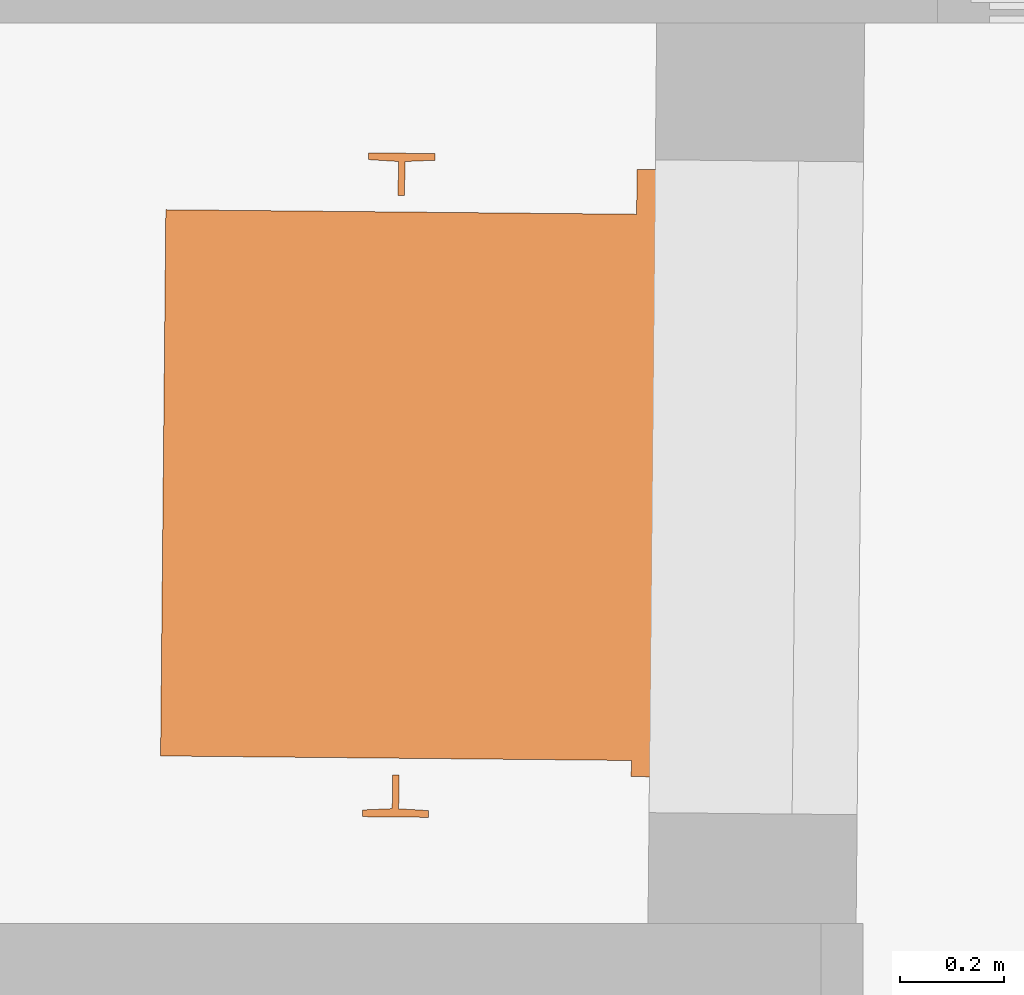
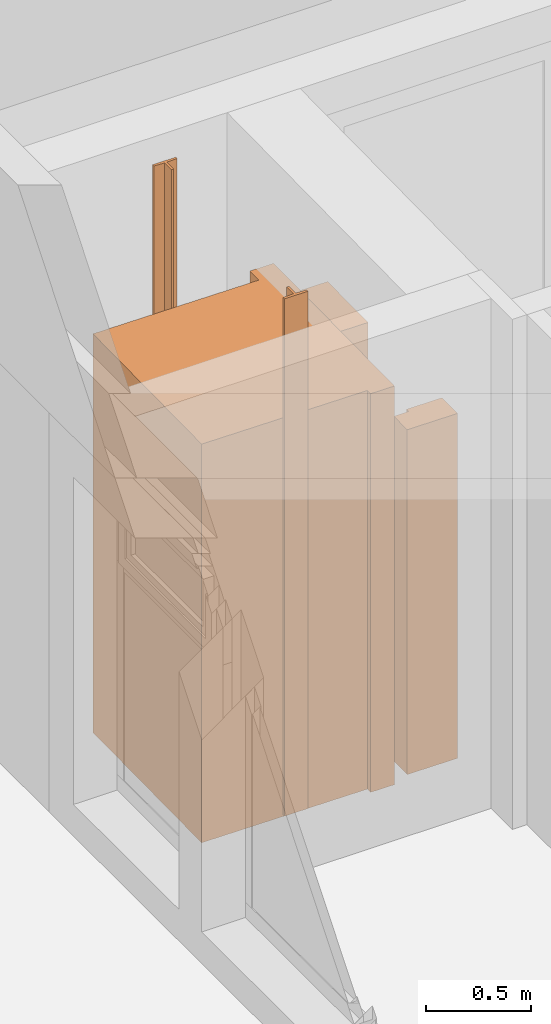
# One storey, part 49 of 49: 1 proxy.
"""IFC4 building model written with IfcOpenShell, lengths in metres."""

from ifc_helpers import new_model, entity, si_unit, converted_unit, derived_unit, direction, frame, origin, place, context, subcontext, project, spatial, polygons, source, transform, mapped, material, type_object, type_shapes, element, save


model = new_model("IFC4")

# Units and contexts
model_context = context("Model", 3, precision=1e-05, world=origin(), true_north=direction((6.12303176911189e-17, 1.0)))
body_context = subcontext(model_context, "Body", "Model", "MODEL_VIEW")
ifc_project = project(units=[si_unit("LENGTHUNIT", "METRE"), si_unit("AREAUNIT", "SQUARE_METRE"), si_unit("VOLUMEUNIT", "CUBIC_METRE"), converted_unit("PLANEANGLEUNIT", "DEGREE", entity("IfcRatioMeasure", 0.0174532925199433), si_unit("PLANEANGLEUNIT", "RADIAN"), dimensions=[0, 0, 0, 0, 0, 0, 0]), si_unit("MASSUNIT", "GRAM", prefix="KILO"), derived_unit("MASSDENSITYUNIT", [(si_unit("MASSUNIT", "GRAM", prefix="KILO"), 1), (si_unit("LENGTHUNIT", "METRE"), -3)]), derived_unit("MOMENTOFINERTIAUNIT", [(si_unit("LENGTHUNIT", "METRE"), 4)]), si_unit("TIMEUNIT", "SECOND"), si_unit("FREQUENCYUNIT", "HERTZ"), si_unit("THERMODYNAMICTEMPERATUREUNIT", "DEGREE_CELSIUS"), derived_unit("THERMALTRANSMITTANCEUNIT", [(si_unit("MASSUNIT", "GRAM", prefix="KILO"), 1), (si_unit("THERMODYNAMICTEMPERATUREUNIT", "KELVIN"), -1), (si_unit("TIMEUNIT", "SECOND"), -3)]), derived_unit("VOLUMETRICFLOWRATEUNIT", [(si_unit("LENGTHUNIT", "METRE"), 3), (si_unit("TIMEUNIT", "SECOND"), -1)]), si_unit("ELECTRICCURRENTUNIT", "AMPERE"), si_unit("ELECTRICVOLTAGEUNIT", "VOLT"), si_unit("POWERUNIT", "WATT"), si_unit("FORCEUNIT", "NEWTON", prefix="KILO"), si_unit("ILLUMINANCEUNIT", "LUX"), si_unit("LUMINOUSFLUXUNIT", "LUMEN"), si_unit("LUMINOUSINTENSITYUNIT", "CANDELA"), derived_unit("USERDEFINED", [(si_unit("MASSUNIT", "GRAM", prefix="KILO"), -1), (si_unit("LENGTHUNIT", "METRE"), -2), (si_unit("TIMEUNIT", "SECOND"), 3), (si_unit("LUMINOUSFLUXUNIT", "LUMEN"), 1)]), derived_unit("LINEARVELOCITYUNIT", [(si_unit("LENGTHUNIT", "METRE"), 1), (si_unit("TIMEUNIT", "SECOND"), -1)]), si_unit("PRESSUREUNIT", "PASCAL"), derived_unit("USERDEFINED", [(si_unit("LENGTHUNIT", "METRE"), -2), (si_unit("MASSUNIT", "GRAM", prefix="KILO"), 1), (si_unit("TIMEUNIT", "SECOND"), -2)]), derived_unit("LINEARFORCEUNIT", [(si_unit("MASSUNIT", "GRAM", prefix="KILO"), 1), (si_unit("LENGTHUNIT", "METRE"), 1), (si_unit("TIMEUNIT", "SECOND"), -2), (si_unit("LENGTHUNIT", "METRE"), -1)]), derived_unit("PLANARFORCEUNIT", [(si_unit("MASSUNIT", "GRAM", prefix="KILO"), 1), (si_unit("LENGTHUNIT", "METRE"), 1), (si_unit("TIMEUNIT", "SECOND"), -2), (si_unit("LENGTHUNIT", "METRE"), -2)])], contexts=[model_context])

# Site, building, storey
site_placement = place(None, origin())
site = spatial("IfcSite", under=ifc_project, at=site_placement, Name="Default", CompositionType="ELEMENT")
building_placement = place(site_placement, origin())
building = spatial("IfcBuilding", under=site, at=building_placement, Name="HOTEL CONSULAIRE BOULOGNE SUR MER", CompositionType="ELEMENT")
storey_placement = place(building_placement, frame((0.0, 0.0, 6.81974152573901)))
storey = spatial("IfcBuildingStorey", under=building, at=storey_placement, Name="Niveau 2", CompositionType="ELEMENT", Elevation=6.81974152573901)

# Proxy
ifc_material = material(Name="<Unnamed>")
building_element_proxy_type = type_object("IfcBuildingElementProxyType", Name="Ascenseur 4 personnes - Mur:1000 x 880mm", PredefinedType="NOTDEFINED", material=ifc_material)
shared_shape = source(origin(), body_context, "Body", "Tessellation", [
    polygons([(-0.400000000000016, -1.1400000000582, 2.222), (0.649999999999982, -1.14000000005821, 2.222), (0.649999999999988, -0.235000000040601, 2.222), (0.68100000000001, -0.235000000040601, 2.222), (0.681000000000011, -0.105000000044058, 2.222), (-0.486499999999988, -0.105000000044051, 2.222), (-0.486499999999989, -0.235000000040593, 2.222), (-0.40000000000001, -0.235000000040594, 2.222), (-0.400000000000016, -1.1400000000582, 2.2), (-0.40000000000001, -0.235000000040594, 2.2), (-0.486499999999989, -0.235000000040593, 2.2), (-0.486499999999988, -0.105000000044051, 2.2), (0.681000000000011, -0.105000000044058, 2.2), (0.68100000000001, -0.235000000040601, 2.2), (0.649999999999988, -0.235000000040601, 2.2), (0.649999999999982, -1.14000000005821, 2.2)], [[[8, 1, 2, 3, 4, 5, 6, 7]], [[15, 16, 9, 10, 11, 12, 13, 14]], [[2, 1, 9, 16]], [[4, 3, 15, 14]], [[8, 7, 11, 10]], [[3, 2, 16, 15]], [[5, 4, 14, 13]], [[6, 5, 13, 12]], [[7, 6, 12, 11]], [[1, 8, 10, 9]]], closed=True),
    polygons([(-0.400000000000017, -1.1400000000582, 0.0), (0.64999999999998, -1.14000000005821, 0.0), (0.649999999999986, -0.235000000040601, 0.0), (0.68100000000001, -0.235000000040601, 0.0), (0.681000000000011, -0.105000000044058, 0.0), (-0.486499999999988, -0.105000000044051, 0.0), (-0.486499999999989, -0.235000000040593, 0.0), (-0.400000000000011, -0.235000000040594, 0.0), (-0.400000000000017, -1.1400000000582, -0.09), (-0.400000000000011, -0.235000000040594, -0.09), (-0.486499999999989, -0.235000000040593, -0.09), (-0.486499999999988, -0.105000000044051, -0.09), (0.681000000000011, -0.105000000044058, -0.09), (0.68100000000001, -0.235000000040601, -0.09), (0.649999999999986, -0.235000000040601, -0.09), (0.64999999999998, -1.14000000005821, -0.09)], [[[8, 1, 2, 3, 4, 5, 6, 7]], [[15, 16, 9, 10, 11, 12, 13, 14]], [[2, 1, 9, 16]], [[4, 3, 15, 14]], [[8, 7, 11, 10]], [[3, 2, 16, 15]], [[5, 4, 14, 13]], [[6, 5, 13, 12]], [[7, 6, 12, 11]], [[1, 8, 10, 9]]], closed=True),
    polygons([(-0.400000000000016, -1.1400000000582, 2.2), (0.649999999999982, -1.14000000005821, 2.2), (0.649999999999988, -0.235000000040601, 2.2), (0.68100000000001, -0.235000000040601, 2.2), (0.681000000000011, -0.105000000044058, 2.2), (-0.486499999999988, -0.105000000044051, 2.2), (-0.486499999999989, -0.235000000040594, 2.2), (-0.40000000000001, -0.235000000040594, 2.2), (-0.375000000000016, -1.1150000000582, 2.2), (-0.375000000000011, -0.235000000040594, 2.2), (-0.110300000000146, -0.235000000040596, 2.2), (-0.110300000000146, -0.197000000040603, 2.2), (-0.458122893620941, -0.197000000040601, 2.2), (-0.45812289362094, -0.108958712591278, 2.2), (0.621169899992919, -0.108958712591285, 2.2), (0.621169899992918, -0.192683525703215, 2.2), (0.59999999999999, -0.192683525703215, 2.2), (0.599999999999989, -0.235000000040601, 2.2), (0.624999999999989, -0.235000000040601, 2.2), (0.624999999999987, -0.57250164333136, 2.2), (0.610245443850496, -0.572501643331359, 2.2), (0.610245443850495, -0.802501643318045, 2.2), (0.624999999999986, -0.802501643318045, 2.2), (0.624999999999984, -1.11500000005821, 2.2), (-0.400000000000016, -1.1400000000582, 0.0), (-0.40000000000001, -0.235000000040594, 0.0), (-0.486499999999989, -0.235000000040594, 0.0), (-0.486499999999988, -0.105000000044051, 0.0), (-0.173443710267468, -0.105000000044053, 0.0), (-0.173443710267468, -0.10895871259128, 0.0), (-0.45812289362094, -0.108958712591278, 0.0), (-0.458122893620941, -0.197000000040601, 0.0), (-0.110300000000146, -0.197000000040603, 0.0), (-0.110300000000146, -0.235000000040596, 0.0), (-0.375000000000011, -0.235000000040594, 0.0), (-0.375000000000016, -1.1150000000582, 0.0), (0.624999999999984, -1.11500000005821, 0.0), (0.624999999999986, -0.802501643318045, 0.0), (0.610245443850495, -0.802501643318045, 0.0), (0.610245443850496, -0.572501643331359, 0.0), (0.624999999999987, -0.57250164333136, 0.0), (0.624999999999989, -0.235000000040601, 0.0), (0.599999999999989, -0.235000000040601, 0.0), (0.59999999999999, -0.192683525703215, 0.0), (0.621169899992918, -0.192683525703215, 0.0), (0.621169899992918, -0.105000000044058, 0.0), (0.681000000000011, -0.105000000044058, 0.0), (0.68100000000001, -0.235000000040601, 0.0), (0.649999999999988, -0.235000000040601, 0.0), (0.649999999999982, -1.14000000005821, 0.0), (0.621169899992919, -0.105000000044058, 2.0), (-0.173443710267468, -0.105000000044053, 2.0), (-0.173443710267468, -0.10895871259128, 2.0), (0.621169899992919, -0.108958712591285, 2.0), (0.59999999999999, -0.192683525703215, 2.0)], [[[9, 10, 11, 12, 13, 14, 15, 16, 17, 18, 19, 20, 21, 22, 23, 24], [1, 2, 3, 4, 5, 6, 7, 8]], [[50, 25, 26, 27, 28, 29, 30, 31, 32, 33, 34, 35, 36, 37, 38, 39, 40, 41, 42, 43, 44, 45, 46, 47, 48, 49]], [[51, 54, 53, 52]], [[2, 1, 25, 50]], [[4, 3, 49, 48]], [[8, 7, 27, 26]], [[11, 10, 35, 34]], [[54, 15, 14, 31, 30, 53]], [[19, 18, 43, 42]], [[23, 22, 39, 38]], [[3, 2, 50, 49]], [[5, 4, 48, 47]], [[10, 9, 36, 35]], [[12, 11, 34, 33]], [[14, 13, 32, 31]], [[52, 53, 30, 29]], [[5, 47, 46, 51, 52, 29, 28, 6]], [[13, 12, 33, 32]], [[17, 16, 45, 44, 55]], [[21, 20, 41, 40]], [[9, 24, 37, 36]], [[7, 6, 28, 27]], [[1, 8, 26, 25]], [[54, 51, 46, 45, 16, 15]], [[18, 17, 55, 44, 43]], [[20, 19, 42, 41]], [[22, 21, 40, 39]], [[24, 23, 38, 37]]], closed=True),
    polygons([(-0.497026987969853, -0.693801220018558, 0.0), (-0.500026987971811, -0.75100121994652, 0.0), (-0.513026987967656, -0.75100121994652, 0.0), (-0.513026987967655, -0.624001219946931, 0.0), (-0.500026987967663, -0.624001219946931, 0.0), (-0.497113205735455, -0.681305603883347, 0.0), (-0.432026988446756, -0.681305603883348, 0.0), (-0.432026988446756, -0.693801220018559, 0.0), (-0.497026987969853, -0.693801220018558, 3.0), (-0.432026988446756, -0.693801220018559, 3.0), (-0.432026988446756, -0.681305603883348, 3.0), (-0.497113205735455, -0.681305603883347, 3.0), (-0.500026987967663, -0.624001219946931, 3.0), (-0.513026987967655, -0.624001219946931, 3.0), (-0.513026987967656, -0.75100121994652, 3.0), (-0.500026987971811, -0.75100121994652, 3.0)], [[[8, 1, 2, 3, 4, 5, 6, 7]], [[14, 15, 16, 9, 10, 11, 12, 13]], [[10, 9, 1, 8]], [[16, 15, 3, 2]], [[11, 10, 8, 7]], [[12, 11, 7, 6]], [[14, 13, 5, 4]], [[13, 12, 6, 5]], [[15, 14, 4, 3]], [[9, 16, 2, 1]]], closed=True),
    polygons([(0.750026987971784, -0.751001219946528, 3.0), (0.763026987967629, -0.751001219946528, 3.0), (0.76302698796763, -0.624001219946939, 3.0), (0.750026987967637, -0.624001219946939, 3.0), (0.747113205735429, -0.681305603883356, 3.0), (0.682026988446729, -0.681305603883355, 3.0), (0.682026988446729, -0.693801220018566, 3.0), (0.747026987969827, -0.693801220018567, 3.0), (0.750026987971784, -0.751001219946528, 0.0), (0.747026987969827, -0.693801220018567, 0.0), (0.682026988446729, -0.693801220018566, 0.0), (0.682026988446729, -0.681305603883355, 0.0), (0.747113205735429, -0.681305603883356, 0.0), (0.750026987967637, -0.624001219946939, 0.0), (0.76302698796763, -0.624001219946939, 0.0), (0.763026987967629, -0.751001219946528, 0.0)], [[[7, 8, 1, 2, 3, 4, 5, 6]], [[15, 16, 9, 10, 11, 12, 13, 14]], [[2, 1, 9, 16]], [[8, 7, 11, 10]], [[3, 2, 16, 15]], [[4, 3, 15, 14]], [[6, 5, 13, 12]], [[5, 4, 14, 13]], [[7, 6, 12, 11]], [[1, 8, 10, 9]]], closed=True),
    polygons([(-0.48862205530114, 0.00838938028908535, 0.0), (-0.10262205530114, 0.00838938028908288, 0.0), (-0.10262205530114, -0.0306106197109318, 0.0), (-0.48862205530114, -0.0306106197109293, 0.0), (-0.48862205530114, 0.00838938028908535, 2.0), (-0.48862205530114, -0.0306106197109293, 2.0), (-0.10262205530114, -0.0306106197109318, 2.0), (-0.10262205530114, 0.00838938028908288, 2.0)], [[[2, 3, 4, 1]], [[5, 6, 7, 8]], [[6, 5, 1, 4]], [[7, 6, 4, 3]], [[8, 7, 3, 2]], [[5, 8, 2, 1]]], closed=True),
    polygons([(-0.114830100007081, -0.144000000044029, 2.0), (0.271169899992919, -0.144000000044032, 2.0), (0.271169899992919, -0.108958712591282, 2.0), (-0.114830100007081, -0.108958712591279, 2.0), (-0.114830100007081, -0.144000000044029, 0.0), (-0.114830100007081, -0.108958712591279, 0.0), (0.271169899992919, -0.108958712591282, 0.0), (0.271169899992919, -0.144000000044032, 0.0)], [[[4, 1, 2, 3]], [[7, 8, 5, 6]], [[2, 1, 5, 8]], [[3, 2, 8, 7]], [[4, 3, 7, 6]], [[1, 4, 6, 5]]], closed=True),
    polygons([(-0.448622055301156, -0.190989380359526, 0.0), (-0.448622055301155, -0.149389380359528, 0.0), (-0.0626220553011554, -0.14938938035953, 0.0), (-0.0626220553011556, -0.190989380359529, 0.0), (-0.448622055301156, -0.190989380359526, 2.0), (-0.0626220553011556, -0.190989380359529, 2.0), (-0.0626220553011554, -0.14938938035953, 2.0), (-0.448622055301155, -0.149389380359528, 2.0)], [[[3, 4, 1, 2]], [[8, 5, 6, 7]], [[6, 5, 1, 4]], [[7, 6, 4, 3]], [[8, 7, 3, 2]], [[5, 8, 2, 1]]], closed=True),
    polygons([(-0.124830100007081, -0.0750000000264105, 2.0), (0.261169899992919, -0.075000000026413, 2.0), (0.261169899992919, -0.0360000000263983, 2.0), (-0.124830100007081, -0.0360000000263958, 2.0), (-0.124830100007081, -0.0750000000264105, 0.0), (-0.124830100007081, -0.0360000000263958, 0.0), (0.261169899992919, -0.0360000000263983, 0.0), (0.261169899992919, -0.075000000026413, 0.0)], [[[4, 1, 2, 3]], [[7, 8, 5, 6]], [[2, 1, 5, 8]], [[3, 2, 8, 7]], [[4, 3, 7, 6]], [[1, 4, 6, 5]]], closed=True),
    polygons([(0.599999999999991, 0.00499999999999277, 0.0), (0.599999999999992, 0.200000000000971, 0.0), (0.750000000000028, 0.20000000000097, 0.0), (0.750000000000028, -0.0750000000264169, 0.0), (0.621169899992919, -0.0750000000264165, 0.0), (0.621169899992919, 0.0049999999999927, 0.0), (0.599999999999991, 0.00499999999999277, 2.0), (0.621169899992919, 0.0049999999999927, 2.0), (0.621169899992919, -0.0750000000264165, 2.0), (0.750000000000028, -0.0750000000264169, 2.0), (0.750000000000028, 0.20000000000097, 2.0), (0.599999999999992, 0.200000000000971, 2.0)], [[[6, 1, 2, 3, 4, 5]], [[10, 11, 12, 7, 8, 9]], [[8, 7, 1, 6]], [[10, 9, 5, 4]], [[9, 8, 6, 5]], [[7, 12, 2, 1]], [[11, 10, 4, 3]], [[12, 11, 3, 2]]], closed=True),
    polygons([(-0.114979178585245, 0.199999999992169, 2.0), (-0.505006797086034, 0.200000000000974, 2.0), (-0.505006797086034, 0.0144785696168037, 2.0), (-0.114979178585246, 0.0144785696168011, 2.0), (-0.114979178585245, 0.199999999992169, 0.0), (-0.114979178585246, 0.0144785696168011, 0.0), (-0.505006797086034, 0.0144785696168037, 0.0), (-0.505006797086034, 0.200000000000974, 0.0)], [[[4, 1, 2, 3]], [[7, 8, 5, 6]], [[2, 1, 5, 8]], [[3, 2, 8, 7]], [[4, 3, 7, 6]], [[1, 4, 6, 5]]], closed=True),
])
type_shapes(building_element_proxy_type, [shared_shape])
proxy_placement = place(storey_placement, frame((9.29719546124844, -11.0098795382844, 0.0), z_axis=(0.0, 0.0, 1.0), x_axis=(-0.00962277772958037, -0.999953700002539, 0.0)))
element("IfcBuildingElementProxy", 1, at=proxy_placement, inside=storey, type_object=building_element_proxy_type, Name="Ascenseur 4 personnes - Mur:1000 x 880mm", ObjectType="Ascenseur 4 personnes - Mur:1000 x 880mm", PredefinedType="NOTDEFINED", context=body_context, shape_type="MappedRepresentation", body=[
    mapped(shared_shape, transform((0.0, 0.0, 0.0), scale=1.0)),
])

save(model, "model.ifc")
